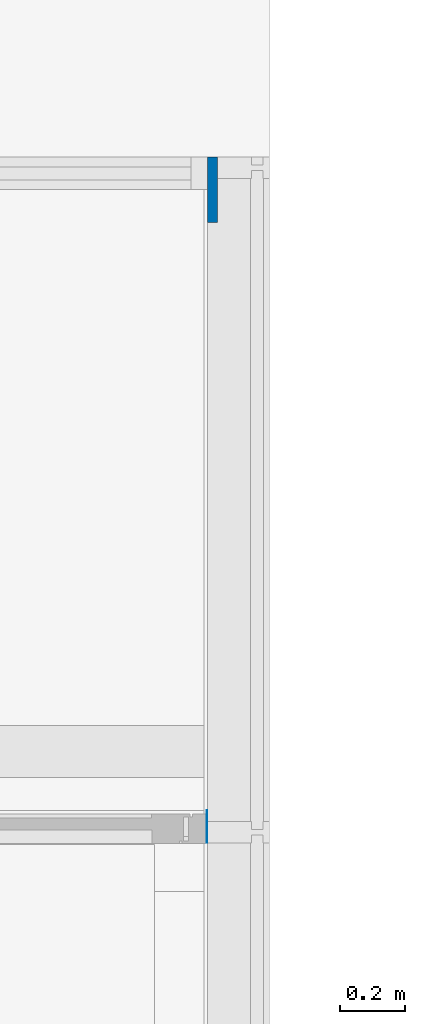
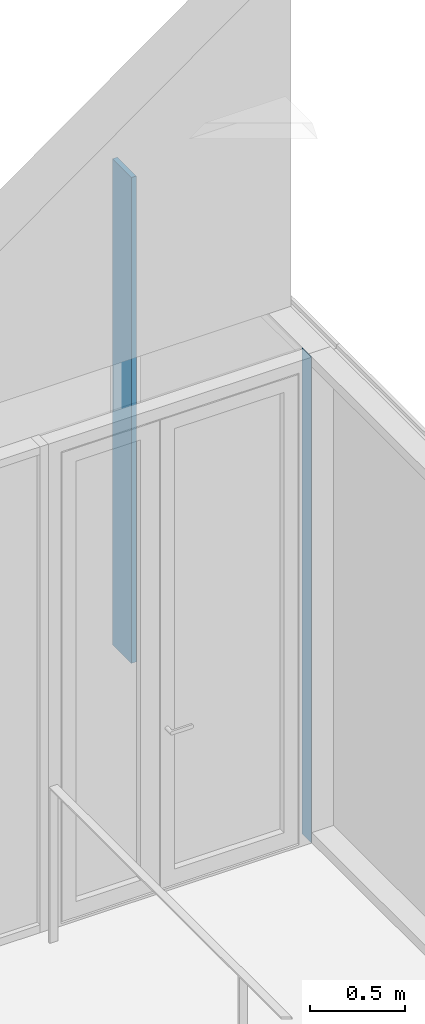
# One storey, part 92 of 240: 2 walls, 2 openings.
"""IFC2X3 building model written with IfcOpenShell, lengths in centimetres."""

from ifc_helpers import new_model, entity, si_unit, converted_unit, derived_unit, direction, frame, frame_2d, origin, place, context, subcontext, project, spatial, rectangle, extrude, material, layer, layer_set, layer_usage, type_object, element, save


model = new_model("IFC2X3")

# Units and contexts
model_context = context("Model", 3, precision=0.001, world=origin(), true_north=direction((6.12303176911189e-17, 1.0)))
body_context = subcontext(model_context, "Body", "Model", "MODEL_VIEW")
ifc_project = project(units=[si_unit("LENGTHUNIT", "METRE", prefix="CENTI"), si_unit("AREAUNIT", "SQUARE_METRE"), si_unit("VOLUMEUNIT", "CUBIC_METRE"), converted_unit("PLANEANGLEUNIT", "DEGREE", entity("IfcRatioMeasure", 0.0174532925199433), si_unit("PLANEANGLEUNIT", "RADIAN"), dimensions=[0, 0, 0, 0, 0, 0, 0]), si_unit("MASSUNIT", "GRAM", prefix="KILO"), derived_unit("MASSDENSITYUNIT", [(si_unit("MASSUNIT", "GRAM", prefix="KILO"), 1), (si_unit("LENGTHUNIT", "METRE"), -3)]), si_unit("TIMEUNIT", "SECOND"), si_unit("FREQUENCYUNIT", "HERTZ"), si_unit("THERMODYNAMICTEMPERATUREUNIT", "DEGREE_CELSIUS"), derived_unit("THERMALTRANSMITTANCEUNIT", [(si_unit("MASSUNIT", "GRAM", prefix="KILO"), 1), (si_unit("THERMODYNAMICTEMPERATUREUNIT", "KELVIN"), -1), (si_unit("TIMEUNIT", "SECOND"), -3)]), derived_unit("VOLUMETRICFLOWRATEUNIT", [(si_unit("LENGTHUNIT", "METRE"), 3), (si_unit("TIMEUNIT", "SECOND"), -1)]), si_unit("ELECTRICCURRENTUNIT", "AMPERE"), si_unit("ELECTRICVOLTAGEUNIT", "VOLT"), si_unit("POWERUNIT", "WATT"), si_unit("FORCEUNIT", "NEWTON", prefix="KILO"), si_unit("ILLUMINANCEUNIT", "LUX"), si_unit("LUMINOUSFLUXUNIT", "LUMEN"), si_unit("LUMINOUSINTENSITYUNIT", "CANDELA"), derived_unit("USERDEFINED", [(si_unit("MASSUNIT", "GRAM", prefix="KILO"), -1), (si_unit("LENGTHUNIT", "METRE"), -2), (si_unit("TIMEUNIT", "SECOND"), 3), (si_unit("LUMINOUSFLUXUNIT", "LUMEN"), 1)]), derived_unit("LINEARVELOCITYUNIT", [(si_unit("LENGTHUNIT", "METRE"), 1), (si_unit("TIMEUNIT", "SECOND"), -1)]), si_unit("PRESSUREUNIT", "PASCAL"), derived_unit("USERDEFINED", [(si_unit("LENGTHUNIT", "METRE"), -2), (si_unit("MASSUNIT", "GRAM", prefix="KILO"), 1), (si_unit("TIMEUNIT", "SECOND"), -2)])], contexts=[model_context])

# Site, building, storey
site_placement = place(None, frame((-2781.94577612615, 7442.24238424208, 0.0)))
site = spatial("IfcSite", under=ifc_project, at=site_placement, Name="Default", CompositionType="ELEMENT")
building_placement = place(site_placement, origin())
building = spatial("IfcBuilding", under=site, at=building_placement, CompositionType="ELEMENT")
storey_placement = place(building_placement, origin())
storey = spatial("IfcBuildingStorey", under=building, at=storey_placement, Name="N00 - COO", CompositionType="ELEMENT", Elevation=0.0)

# Wall
ifc_material_1 = material(Name="01 - Maçonnerie")
ifc_layer_1 = layer(ifc_material_1, 20.0)
ifc_layer_set_1 = layer_set([ifc_layer_1], Name="Mur de base:04 - Structure - béton - 20cm")
ifc_layer_usage_1 = layer_usage(ifc_layer_set_1, "AXIS2", "NEGATIVE", 10.0)
wall_type_1 = type_object("IfcWallType", Name="Mur de base:04 - Structure - béton - 20cm", PredefinedType="STANDARD", material=ifc_layer_set_1)
wall_1_placement = place(building_placement, frame((-8564.932180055, -4025.07903364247, 0.0), z_axis=(0.0, 0.0, 1.0), x_axis=(-1.0, 0.0, 0.0)))
element("IfcWallStandardCase", 1, at=wall_1_placement, inside=storey, type_object=wall_type_1, material=ifc_layer_usage_1, Name="Mur de base:04 - Structure - béton - 20cm", ObjectType="Mur de base:04 - Structure - béton - 20cm", context=body_context, shape_type="SweptSolid", body=[
    extrude(rectangle(XDim=3.05520084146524, YDim=19.9999999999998, at=frame_2d((0.0, -4.33431068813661e-13), x_axis=(1.0, 0.0))), frame((1.52760042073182, 0.0, 0.0)), (0.0, 0.0, 1.0), 313.0),
])

# Wall, openings
ifc_material_2 = material(Name="01 - Enduit/Plâtre")
ifc_layer_2 = layer(ifc_material_2, 1.3)
ifc_material_3 = material(Name="00 - Isolant")
ifc_layer_3 = layer(ifc_material_3, 7.4)
ifc_layer_4 = layer(ifc_material_2, 1.3)
ifc_layer_set_2 = layer_set([ifc_layer_2, ifc_layer_3, ifc_layer_4], Name="Mur de base:06 - cloisons - Ba13 10cm")
ifc_layer_usage_2 = layer_usage(ifc_layer_set_2, "AXIS2", "NEGATIVE", 5.0)
wall_type_2 = type_object("IfcWallType", Name="Mur de base:06 - cloisons - Ba13 10cm", PredefinedType="STANDARD", material=ifc_layer_set_2)
wall_2_placement = place(building_placement, frame((-8568.20162339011, -4220.50027342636, 0.0)))
wall_2 = element("IfcWallStandardCase", 2, at=wall_2_placement, inside=storey, type_object=wall_type_2, material=ifc_layer_usage_2, Name="Mur de base:06 - cloisons - Ba13 10cm", ObjectType="Mur de base:06 - cloisons - Ba13 10cm", context=body_context, shape_type="SweptSolid", body=[
    extrude(rectangle(XDim=0.214242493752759, YDim=9.99999999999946, at=frame_2d((0.107121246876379, 4.44089209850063e-16), x_axis=(-1.0, 0.0))), origin(), (0.0, 0.0, 1.0), 313.0),
])
opening_1_placement = place(wall_2_placement, origin())
element("IfcOpeningElement", 3, at=opening_1_placement, cuts=wall_2, Name="Mur de base:06 - cloisons - Ba13 10cm", ObjectType="Opening", context=body_context, shape_type="SweptSolid", body=[
    extrude(rectangle(XDim=313.000000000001, YDim=153.5, at=frame_2d((0.0, -8.66862137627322e-13), x_axis=(1.0, 0.0))), frame((-237.035757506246, -20.2400000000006, 156.5), z_axis=(0.0, 1.0, 0.0), x_axis=(0.0, 0.0, 1.0)), (0.0, 0.0, 1.0), 40.4800000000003),
])
opening_2_placement = place(wall_2_placement, frame((8568.20162339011, 4220.50027342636, 0.0)))
element("IfcOpeningElement", 4, at=opening_2_placement, cuts=wall_2, Name="Mur de base:06 - cloisons - Ba13 10cm", ObjectType="Opening", context=body_context, shape_type="SweptSolid", body=[
    extrude(rectangle(XDim=328.000000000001, YDim=160.305757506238, at=frame_2d((0.0, 8.66862137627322e-13), x_axis=(1.0, 0.0))), frame((-8648.35450214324, -4276.70027342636, 149.0), z_axis=(0.0, 1.0, 0.0), x_axis=(0.0, 0.0, -1.0)), (0.0, 0.0, 1.0), 61.2999999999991),
])

save(model, "model.ifc")
